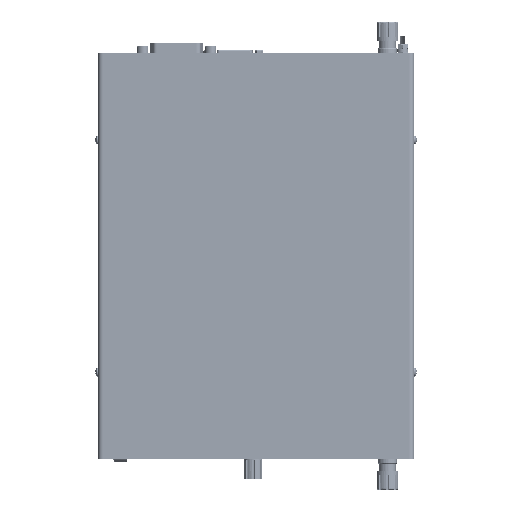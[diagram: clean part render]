
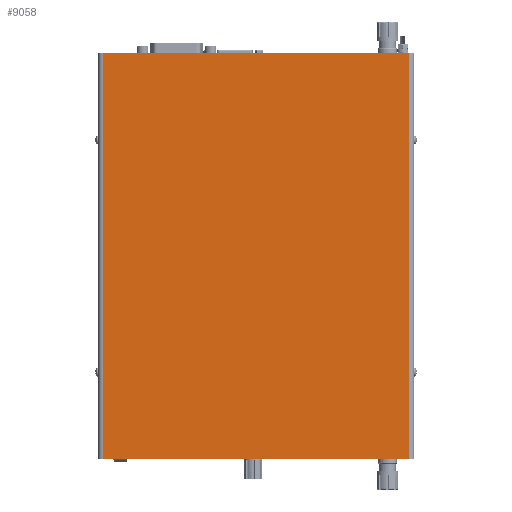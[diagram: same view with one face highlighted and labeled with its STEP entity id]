
A CAD part, top view. The second image highlights one B-rep face of the part: STEP entity #9058.
In plain terms, the highlighted planar face has unit normal (0, 0, 1).
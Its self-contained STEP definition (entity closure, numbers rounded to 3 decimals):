
#9058=ADVANCED_FACE('',(#26616),#26617,.T.);
#26616=FACE_OUTER_BOUND('',#53606,.T.);
#26617=PLANE('',#53607);
#53606=EDGE_LOOP('',(#93399,#93400,#93401,#93402));
#53607=AXIS2_PLACEMENT_3D('',#93403,#93404,#93405);
#93399=ORIENTED_EDGE('',*,*,#168754,.T.);
#93400=ORIENTED_EDGE('',*,*,#169016,.F.);
#93401=ORIENTED_EDGE('',*,*,#169017,.F.);
#93402=ORIENTED_EDGE('',*,*,#169012,.T.);
#93403=CARTESIAN_POINT('',(110.782,301.25,100.184));
#93404=DIRECTION('',(0.,0.,1.0));
#93405=DIRECTION('',(-1.0,0.,0.));
#168754=EDGE_CURVE('',#199815,#199813,#199816,.T.);
#169012=EDGE_CURVE('',#200125,#199815,#200126,.T.);
#169016=EDGE_CURVE('',#200131,#199813,#200132,.T.);
#169017=EDGE_CURVE('',#200125,#200131,#200133,.T.);
#199813=VERTEX_POINT('',#244020);
#199815=VERTEX_POINT('',#244022);
#199816=LINE('',#244023,#244024);
#200125=VERTEX_POINT('',#244479);
#200126=LINE('',#244480,#244481);
#200131=VERTEX_POINT('',#244487);
#200132=LINE('',#244488,#244489);
#200133=LINE('',#244490,#244491);
#244020=CARTESIAN_POINT('',(216.533,21.25,100.184));
#244022=CARTESIAN_POINT('',(5.032,21.25,100.184));
#244023=CARTESIAN_POINT('',(5.032,21.25,100.184));
#244024=VECTOR('',#309423,1.0);
#244479=CARTESIAN_POINT('',(5.032,301.25,100.184));
#244480=CARTESIAN_POINT('',(5.032,301.25,100.184));
#244481=VECTOR('',#309591,1.0);
#244487=CARTESIAN_POINT('',(216.533,301.25,100.184));
#244488=CARTESIAN_POINT('',(216.533,301.25,100.184));
#244489=VECTOR('',#309596,1.0);
#244490=CARTESIAN_POINT('',(5.032,301.25,100.184));
#244491=VECTOR('',#309597,1.0);
#309423=DIRECTION('',(1.0,0.0,0.0));
#309591=DIRECTION('',(0.0,-1.0,0.0));
#309596=DIRECTION('',(0.0,-1.0,0.0));
#309597=DIRECTION('',(1.0,0.0,0.0));
